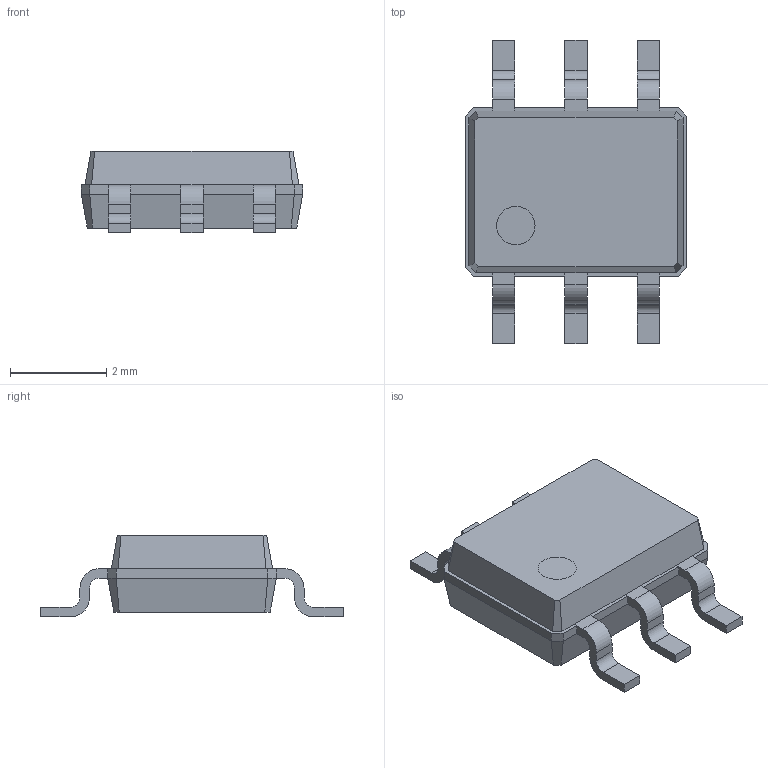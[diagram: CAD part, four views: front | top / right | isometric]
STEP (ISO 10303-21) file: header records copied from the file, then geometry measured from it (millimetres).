
FILE_DESCRIPTION(/* description */ ('model of 4341.6-1_K_SOIC6_P1.5'),/* implementation_level */ '2;1');
FILE_NAME(/* name */ '4341.6-1_K_SOIC6_P1.5.step',/* author */ ('KiCAD','kicad'),/* organization */ ('OCCT'),/* preprocessor_version */ '',/* originating_system */ 'KiCAD',/* authorisation */ '');
FILE_SCHEMA(('AUTOMOTIVE_DESIGN { 1 0 10303 214 1 1 1 1 }'));
Length unit declared in the file: millimetre
Products named in the file (1): 4341.6-1_K_SOIC6_P1.5
Bounding box: 4.6 x 6.3 x 1.7 mm (x, y, z)
Volume: 24.6 mm3; surface area: 68.4 mm2
Topology: 1 solids, 1 shells, 117 faces, 311 edges, 197 vertices
Faces by surface type: plane 77, cylinder 24, bspline 16
Entity records: 2352 total; most frequent: ORIENTED_EDGE 534, EDGE_CURVE 311, CARTESIAN_POINT 260, VERTEX_POINT 197, LINE 196, AXIS2_PLACEMENT_3D 127, FACE_BOUND 118, EDGE_LOOP 118
